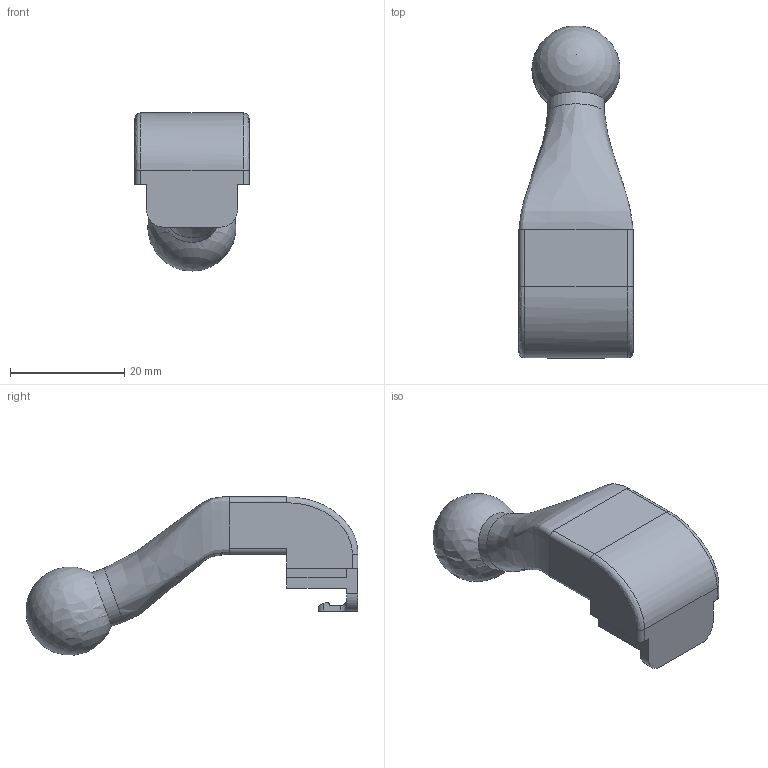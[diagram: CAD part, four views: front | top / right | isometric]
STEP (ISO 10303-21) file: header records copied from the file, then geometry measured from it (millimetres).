
FILE_DESCRIPTION(/* description */ (''),/* implementation_level */ '2;1');
FILE_NAME(/* name */ 'D:/Project/Freelander/MirrorDashCam/Dashcam Mirror Ball High.step',/* time_stamp */ '2019-04-18T12:14:18+02:00',/* author */ ('d.ganzinga'),/* organization */ (''),/* preprocessor_version */ 'ST-DEVELOPER v18',/* originating_system */ 'Autodesk Translation Framework v8.2.0.1029',/* authorisation */ '');
FILE_SCHEMA (('AUTOMOTIVE_DESIGN { 1 0 10303 214 3 1 1 }'));
Length unit declared in the file: millimetre
Products named in the file (1): Dashcam Mirror Ball
Bounding box: 20 x 58.2 x 27.71 mm (x, y, z)
Volume: 10404.1 mm3; surface area: 3805.1 mm2
Topology: 1 solids, 1 shells, 45 faces, 127 edges, 83 vertices
Faces by surface type: plane 24, cylinder 16, bspline 4, sphere 1
Full cylindrical faces by diameter (mm): 10 x1
Entity records: 2147 total; most frequent: CARTESIAN_POINT 953, ORIENTED_EDGE 250, DIRECTION 233, EDGE_CURVE 125, LINE 87, VECTOR 87, VERTEX_POINT 83, AXIS2_PLACEMENT_3D 73
